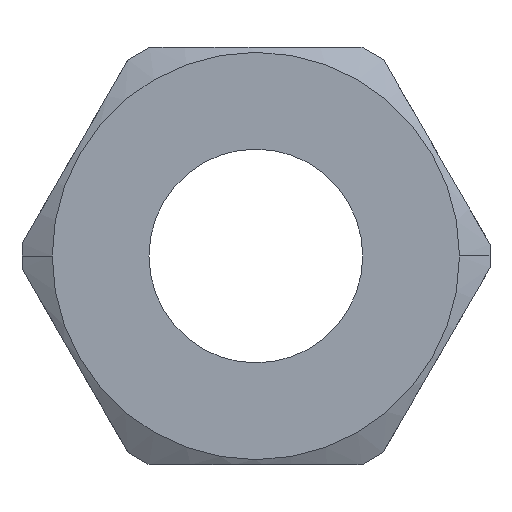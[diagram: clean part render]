
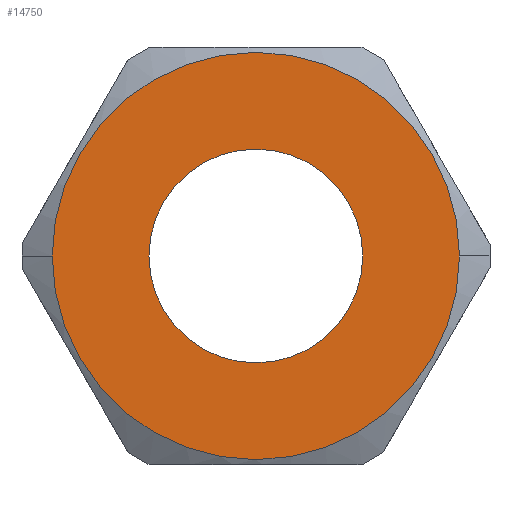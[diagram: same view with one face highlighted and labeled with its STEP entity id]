
A CAD part, front view. The second image highlights one B-rep face of the part: STEP entity #14750.
In plain terms, the highlighted planar face has unit normal (0, -1, 0).
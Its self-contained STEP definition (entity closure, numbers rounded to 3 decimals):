
#14400=CARTESIAN_POINT('',(11.5,0.,0.));
#14410=DIRECTION('',(-0.,1.,0.));
#14420=DIRECTION('',(1.,0.,0.));
#14430=AXIS2_PLACEMENT_3D('',#14400,#14410,#14420);
#14440=PLANE('',#14430);
#14450=CARTESIAN_POINT('',(0.,0.,
0.));
#14460=DIRECTION('',(0.,1.,0.));
#14470=DIRECTION('',(1.,0.,0.));
#14480=AXIS2_PLACEMENT_3D('',#14450,#14460,#14470);
#14490=CIRCLE('',#14480,20.);
#14500=CARTESIAN_POINT('',(20.,0.,
0.));
#14510=VERTEX_POINT('',#14500);
#14520=CARTESIAN_POINT('',(-20.,0.,
0.));
#14530=VERTEX_POINT('',#14520);
#14540=EDGE_CURVE('',#14510,#14530,#14490,.T.);
#14550=ORIENTED_EDGE('',*,*,#14540,.F.);
#14560=EDGE_CURVE('',#14530,#14510,#14490,.T.);
#14570=ORIENTED_EDGE('',*,*,#14560,.F.);
#14580=EDGE_LOOP('',(#14570,#14550));
#14590=FACE_OUTER_BOUND('',#14580,.T.);
#14600=CARTESIAN_POINT('',(0.,0.,0.));
#14610=DIRECTION('',(0.,-1.,0.));
#14620=DIRECTION('',(1.,0.,0.));
#14630=AXIS2_PLACEMENT_3D('',#14600,#14610,#14620);
#14640=CIRCLE('',#14630,10.5);
#14650=CARTESIAN_POINT('',(10.5,0.,0.));
#14660=VERTEX_POINT('',#14650);
#14670=CARTESIAN_POINT('',(-10.5,0.,0.));
#14680=VERTEX_POINT('',#14670);
#14690=EDGE_CURVE('',#14660,#14680,#14640,.T.);
#14700=ORIENTED_EDGE('',*,*,#14690,.F.);
#14710=EDGE_CURVE('',#14680,#14660,#14640,.T.);
#14720=ORIENTED_EDGE('',*,*,#14710,.F.);
#14730=EDGE_LOOP('',(#14720,#14700));
#14740=FACE_BOUND('',#14730,.T.);
#14750=ADVANCED_FACE('',(#14590,#14740),#14440,.F.);
